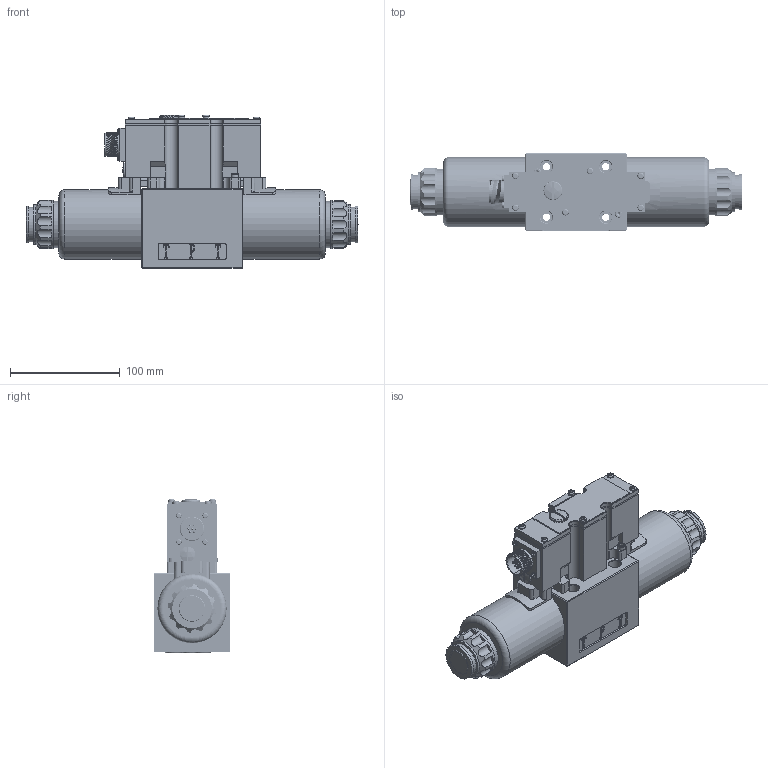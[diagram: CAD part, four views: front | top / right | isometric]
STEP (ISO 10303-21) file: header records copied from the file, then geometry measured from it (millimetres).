
FILE_DESCRIPTION(/* description */ (''),/* implementation_level */ '2;1');
FILE_NAME(/* name */ '4WRAE10-2XJ比例换向阀.prt.stp',/* time_stamp */ '2022-03-30T18:33:35+08:00',/* author */ (''),/* organization */ (''),/* preprocessor_version */ 'ST-DEVELOPER v16.7',/* originating_system */ 'SIEMENS PLM Software NX 12.0',/* authorisation */ '');
FILE_SCHEMA (('AUTOMOTIVE_DESIGN { 1 0 10303 214 3 1 1 1 }'));
Products named in the file (1): 4WRAE10-2XJ比例换向阀
Bounding box: 302.2 x 70 x 140.1 mm (x, y, z)
Volume: 1269296.4 mm3; surface area: 229357.9 mm2
Topology: 30 solids, 39 shells, 1386 faces, 3463 edges, 2207 vertices
Faces by surface type: plane 750, cylinder 435, bspline 62, cone 57, torus 56, sphere 17, extrusion 9
Full cylindrical faces by diameter (mm): 0.8 x1, 1.8 x4, 2 x1, 2.5 x4, 2.8 x26, 3.2 x56, 3.6 x10, 4 x4, 5 x5, 6 x2, 6.5 x2, 6.6 x4, 6.78 x2, 7 x4, 9.36 x1, 10.75 x3, 11 x4, 12.8 x1, 14.04 x1, 14.6 x1, 14.701 x3, 15.7 x5, 16.5 x2, 17 x2, 17.2 x1, 21 x4, 21.4 x2, 24 x2, 31 x2, 31.5 x4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
Entity records: 102982 total; most frequent: CARTESIAN_POINT 73081, ORIENTED_EDGE 5860, DIRECTION 5718, EDGE_CURVE 2930, AXIS2_PLACEMENT_3D 1994, VERTEX_POINT 1973, VECTOR 1730, LINE 1721
